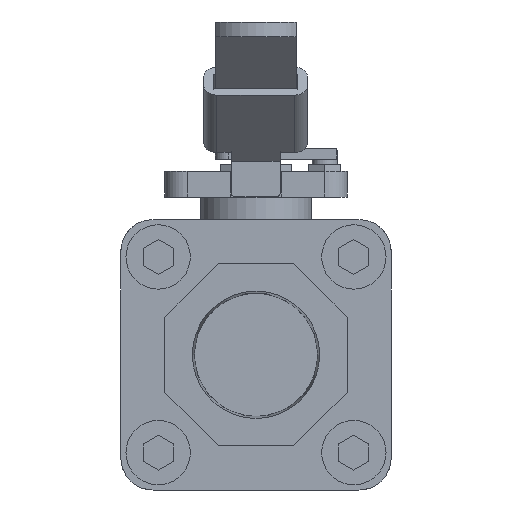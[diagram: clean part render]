
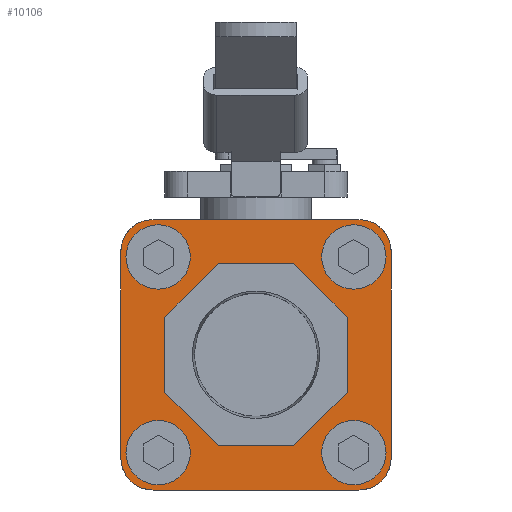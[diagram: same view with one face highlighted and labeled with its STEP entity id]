
A CAD part, left-side view. The second image highlights one B-rep face of the part: STEP entity #10106.
In plain terms, the highlighted planar face has unit normal (-1, 0, 0).
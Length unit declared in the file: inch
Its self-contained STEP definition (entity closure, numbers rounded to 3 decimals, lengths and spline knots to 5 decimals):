
#9739=CARTESIAN_POINT('',(0.575,-0.29306,-0.7075));
#9740=VERTEX_POINT('',#9739);
#9741=CARTESIAN_POINT('',(0.575,0.29306,-0.7075));
#9742=VERTEX_POINT('',#9741);
#9743=CARTESIAN_POINT('',(0.575,-0.29306,-0.7075));
#9744=DIRECTION('',(0.0,1.0,0.0));
#9745=VECTOR('',#9744,0.58611);
#9746=LINE('',#9743,#9745);
#9747=EDGE_CURVE('',#9740,#9742,#9746,.T.);
#9779=CARTESIAN_POINT('',(0.575,-0.7075,-0.29306));
#9780=VERTEX_POINT('',#9779);
#9781=CARTESIAN_POINT('',(0.575,-0.7075,-0.29306));
#9782=DIRECTION('',(0.0,0.707,-0.707));
#9783=VECTOR('',#9782,0.58611);
#9784=LINE('',#9781,#9783);
#9785=EDGE_CURVE('',#9780,#9740,#9784,.T.);
#9810=CARTESIAN_POINT('',(0.575,-0.7075,0.29306));
#9811=VERTEX_POINT('',#9810);
#9812=CARTESIAN_POINT('',(0.575,-0.7075,0.29306));
#9813=DIRECTION('',(0.0,0.0,-1.0));
#9814=VECTOR('',#9813,0.58611);
#9815=LINE('',#9812,#9814);
#9816=EDGE_CURVE('',#9811,#9780,#9815,.T.);
#9841=CARTESIAN_POINT('',(0.575,-0.29306,0.7075));
#9842=VERTEX_POINT('',#9841);
#9843=CARTESIAN_POINT('',(0.575,-0.29306,0.7075));
#9844=DIRECTION('',(0.0,-0.707,-0.707));
#9845=VECTOR('',#9844,0.58611);
#9846=LINE('',#9843,#9845);
#9847=EDGE_CURVE('',#9842,#9811,#9846,.T.);
#9872=CARTESIAN_POINT('',(0.575,0.29306,0.7075));
#9873=VERTEX_POINT('',#9872);
#9874=CARTESIAN_POINT('',(0.575,0.29306,0.7075));
#9875=DIRECTION('',(0.0,-1.0,0.0));
#9876=VECTOR('',#9875,0.58611);
#9877=LINE('',#9874,#9876);
#9878=EDGE_CURVE('',#9873,#9842,#9877,.T.);
#9903=CARTESIAN_POINT('',(0.575,0.7075,0.29306));
#9904=VERTEX_POINT('',#9903);
#9905=CARTESIAN_POINT('',(0.575,0.7075,0.29306));
#9906=DIRECTION('',(0.0,-0.707,0.707));
#9907=VECTOR('',#9906,0.58611);
#9908=LINE('',#9905,#9907);
#9909=EDGE_CURVE('',#9904,#9873,#9908,.T.);
#9934=CARTESIAN_POINT('',(0.575,0.7075,-0.29306));
#9935=VERTEX_POINT('',#9934);
#9936=CARTESIAN_POINT('',(0.575,0.7075,-0.29306));
#9937=DIRECTION('',(0.0,0.0,1.0));
#9938=VECTOR('',#9937,0.58611);
#9939=LINE('',#9936,#9938);
#9940=EDGE_CURVE('',#9935,#9904,#9939,.T.);
#9965=CARTESIAN_POINT('',(0.575,0.29306,-0.7075));
#9966=DIRECTION('',(0.0,0.707,0.707));
#9967=VECTOR('',#9966,0.58611);
#9968=LINE('',#9965,#9967);
#9969=EDGE_CURVE('',#9742,#9935,#9968,.T.);
#10021=CARTESIAN_POINT('',(0.575,0.0,0.0));
#10022=DIRECTION('',(1.0,0.0,0.0));
#10023=DIRECTION('',(0.0,0.0,-1.0));
#10024=AXIS2_PLACEMENT_3D('',#10021,#10022,#10023);
#10025=PLANE('',#10024);
#10026=CARTESIAN_POINT('',(0.575,0.8,-1.05));
#10027=VERTEX_POINT('',#10026);
#10028=CARTESIAN_POINT('',(0.575,1.05,-0.8));
#10029=VERTEX_POINT('',#10028);
#10030=CARTESIAN_POINT('',(0.575,0.8,-0.8));
#10031=DIRECTION('',(1.0,0.0,0.0));
#10032=DIRECTION('',(0.0,0.707,-0.707));
#10033=AXIS2_PLACEMENT_3D('',#10030,#10031,#10032);
#10034=CIRCLE('',#10033,0.25);
#10035=EDGE_CURVE('',#10027,#10029,#10034,.T.);
#10036=ORIENTED_EDGE('',*,*,#10035,.F.);
#10037=CARTESIAN_POINT('',(0.575,-0.8,-1.05));
#10038=VERTEX_POINT('',#10037);
#10039=CARTESIAN_POINT('',(0.575,-0.8,-1.05));
#10040=DIRECTION('',(0.0,1.0,0.0));
#10041=VECTOR('',#10040,1.6);
#10042=LINE('',#10039,#10041);
#10043=EDGE_CURVE('',#10038,#10027,#10042,.T.);
#10044=ORIENTED_EDGE('',*,*,#10043,.F.);
#10045=CARTESIAN_POINT('',(0.575,-1.05,-0.8));
#10046=VERTEX_POINT('',#10045);
#10047=CARTESIAN_POINT('',(0.575,-0.8,-0.8));
#10048=DIRECTION('',(1.0,0.0,0.0));
#10049=DIRECTION('',(0.0,-0.707,-0.707));
#10050=AXIS2_PLACEMENT_3D('',#10047,#10048,#10049);
#10051=CIRCLE('',#10050,0.25);
#10052=EDGE_CURVE('',#10046,#10038,#10051,.T.);
#10053=ORIENTED_EDGE('',*,*,#10052,.F.);
#10054=CARTESIAN_POINT('',(0.575,-1.05,0.8));
#10055=VERTEX_POINT('',#10054);
#10056=CARTESIAN_POINT('',(0.575,-1.05,0.8));
#10057=DIRECTION('',(0.0,0.0,-1.0));
#10058=VECTOR('',#10057,1.6);
#10059=LINE('',#10056,#10058);
#10060=EDGE_CURVE('',#10055,#10046,#10059,.T.);
#10061=ORIENTED_EDGE('',*,*,#10060,.F.);
#10062=CARTESIAN_POINT('',(0.575,-0.8,1.05));
#10063=VERTEX_POINT('',#10062);
#10064=CARTESIAN_POINT('',(0.575,-0.8,0.8));
#10065=DIRECTION('',(1.0,0.0,0.0));
#10066=DIRECTION('',(0.0,-0.707,0.707));
#10067=AXIS2_PLACEMENT_3D('',#10064,#10065,#10066);
#10068=CIRCLE('',#10067,0.25);
#10069=EDGE_CURVE('',#10063,#10055,#10068,.T.);
#10070=ORIENTED_EDGE('',*,*,#10069,.F.);
#10071=CARTESIAN_POINT('',(0.575,0.8,1.05));
#10072=VERTEX_POINT('',#10071);
#10073=CARTESIAN_POINT('',(0.575,0.8,1.05));
#10074=DIRECTION('',(0.0,-1.0,0.0));
#10075=VECTOR('',#10074,1.6);
#10076=LINE('',#10073,#10075);
#10077=EDGE_CURVE('',#10072,#10063,#10076,.T.);
#10078=ORIENTED_EDGE('',*,*,#10077,.F.);
#10079=CARTESIAN_POINT('',(0.575,1.05,0.8));
#10080=VERTEX_POINT('',#10079);
#10081=CARTESIAN_POINT('',(0.575,0.8,0.8));
#10082=DIRECTION('',(1.0,0.0,0.0));
#10083=DIRECTION('',(0.0,0.707,0.707));
#10084=AXIS2_PLACEMENT_3D('',#10081,#10082,#10083);
#10085=CIRCLE('',#10084,0.25);
#10086=EDGE_CURVE('',#10080,#10072,#10085,.T.);
#10087=ORIENTED_EDGE('',*,*,#10086,.F.);
#10088=CARTESIAN_POINT('',(0.575,1.05,-0.8));
#10089=DIRECTION('',(0.0,0.0,1.0));
#10090=VECTOR('',#10089,1.6);
#10091=LINE('',#10088,#10090);
#10092=EDGE_CURVE('',#10029,#10080,#10091,.T.);
#10093=ORIENTED_EDGE('',*,*,#10092,.F.);
#10094=EDGE_LOOP('',(#10036,#10044,#10053,#10061,#10070,#10078,#10087,#10093));
#10095=FACE_OUTER_BOUND('',#10094,.T.);
#10096=ORIENTED_EDGE('',*,*,#9747,.T.);
#10097=ORIENTED_EDGE('',*,*,#9969,.T.);
#10098=ORIENTED_EDGE('',*,*,#9940,.T.);
#10099=ORIENTED_EDGE('',*,*,#9909,.T.);
#10100=ORIENTED_EDGE('',*,*,#9878,.T.);
#10101=ORIENTED_EDGE('',*,*,#9847,.T.);
#10102=ORIENTED_EDGE('',*,*,#9816,.T.);
#10103=ORIENTED_EDGE('',*,*,#9785,.T.);
#10104=EDGE_LOOP('',(#10096,#10097,#10098,#10099,#10100,#10101,#10102,#10103));
#10105=FACE_BOUND('',#10104,.T.);
#10106=ADVANCED_FACE('',(#10095,#10105),#10025,.F.);
